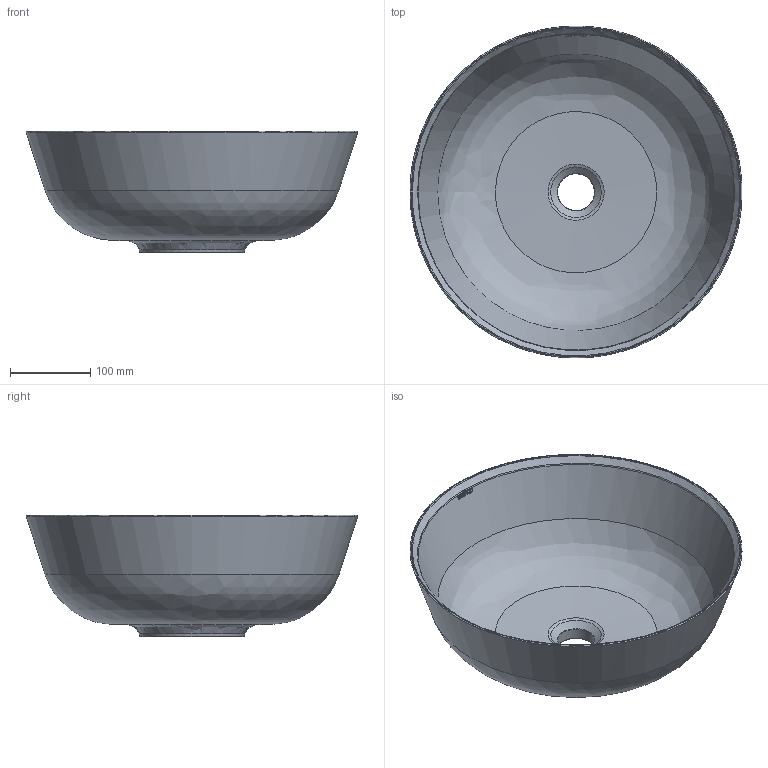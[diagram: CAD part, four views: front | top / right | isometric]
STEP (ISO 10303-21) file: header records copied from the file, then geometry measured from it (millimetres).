
FILE_DESCRIPTION(/* description */ (''),/* implementation_level */ '2;1');
FILE_NAME(/* name */ '6042_PARANA',/* time_stamp */ '2022-12-19T14:08:37+01:00',/* author */ (''),/* organization */ (''),/* preprocessor_version */ 'ST-DEVELOPER v16.5',/* originating_system */ '',/* authorisation */ '');
FILE_SCHEMA (('CONFIG_CONTROL_DESIGN'));
Length unit declared in the file: millimetre
Products named in the file (1): Document
Bounding box: 414.15 x 414.06 x 152 mm (x, y, z)
Volume: 2093471 mm3; surface area: 452719.9 mm2
Topology: 8 solids, 8 shells, 108 faces, 238 edges, 144 vertices
Faces by surface type: bspline 102, plane 5, cylinder 1
Full cylindrical faces by diameter (mm): 46 x1
Entity records: 4953 total; most frequent: CARTESIAN_POINT 3452, ORIENTED_EDGE 476, EDGE_CURVE 238, VERTEX_POINT 144, B_SPLINE_CURVE_WITH_KNOTS 141, EDGE_LOOP 114, ADVANCED_FACE 108, FACE_OUTER_BOUND 108
